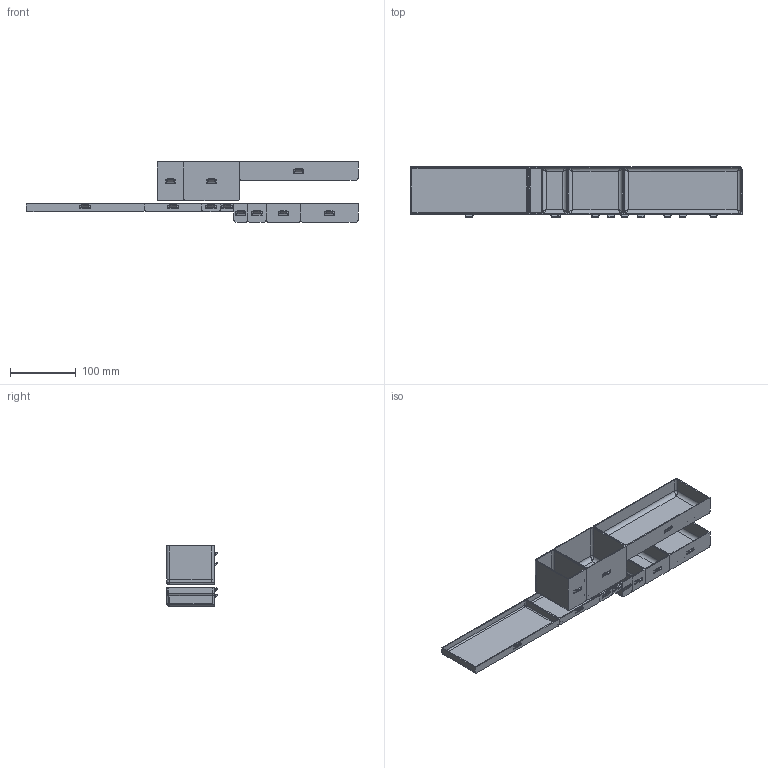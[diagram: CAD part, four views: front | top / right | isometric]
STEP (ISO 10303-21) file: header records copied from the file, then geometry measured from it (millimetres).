
FILE_DESCRIPTION(/* description */ ('STEP AP242','CAx-IF Rec.Pracs.---Representation and Presentation of Product Manufacturing Information (PMI)---4.0---2014-10-13','CAx-IF Rec.Pracs.---3D Tessellated Geometry---0.4---2014-09-14','2;1'),/* implementation_level */ '2;1');
FILE_NAME(/* name */ '6456461ea5ed027e9a81ca75',/* time_stamp */ '2023-05-06T12:20:48Z',/* author */ (''),/* organization */ (''),/* preprocessor_version */ 'ST-DEVELOPER v19.4',/* originating_system */ ' ',/* authorisation */ ' ');
FILE_SCHEMA (('AP242_MANAGED_MODEL_BASED_3D_ENGINEERING_MIM_LF { 1 0 10303 442 1 1 4 }'));
Length unit declared in the file: metre
Products named in the file (11): VS; L; M; S; LP-S; LP-M; XL; XXL; LP-XL; LP-XXL; VM
Bounding box: 506.5 x 77.63 x 92 mm (x, y, z)
Volume: 221606.5 mm3; surface area: 276201.1 mm2
Topology: 11 solids, 11 shells, 495 faces, 1226 edges, 693 vertices
Faces by surface type: cylinder 231, plane 176, bspline 54, torus 28, sphere 6
Entity records: 17780 total; most frequent: CARTESIAN_POINT 6780, ORIENTED_EDGE 2288, DIRECTION 2097, EDGE_CURVE 1144, AXIS2_PLACEMENT_3D 746, VERTEX_POINT 693, LINE 605, VECTOR 605
